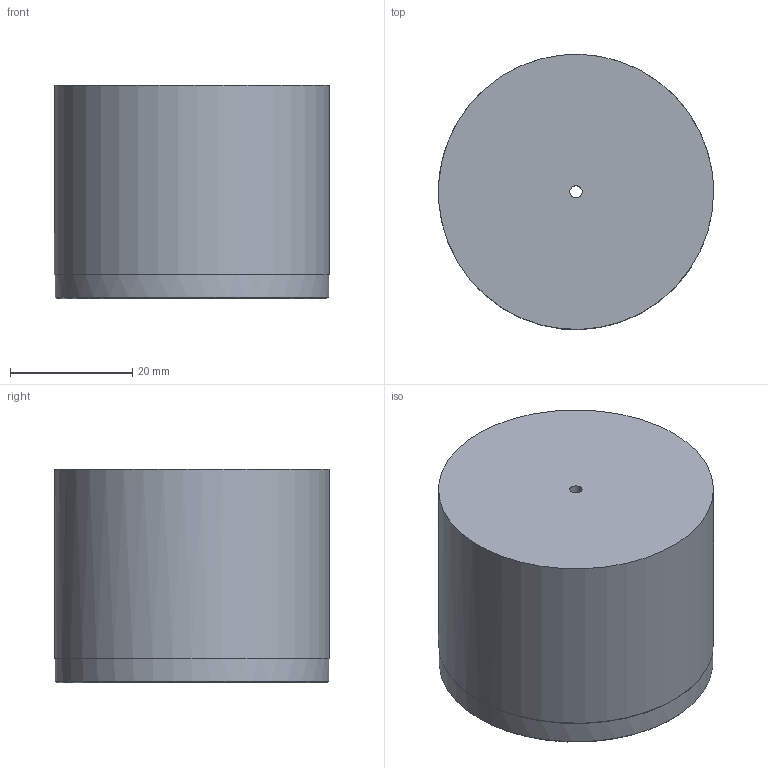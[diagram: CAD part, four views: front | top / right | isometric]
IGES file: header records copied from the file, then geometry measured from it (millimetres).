
Start section: C
Global section: file name: MSPBSC450835.igs; native system: By Siemens PLM Incorporated; preprocessor: XPlus GENERIC/IGES 18.0.17; author: Author; organization: Title; date: 20240726.163132; units: millimetre
Bounding box: 45 x 44.98 x 35 mm (x, y, z)
Volume: 28249.5 mm3; surface area: 11156.3 mm2
Topology: 1 solids, 1 shells, 293 faces, 762 edges, 508 vertices
Faces by surface type: bspline 293
